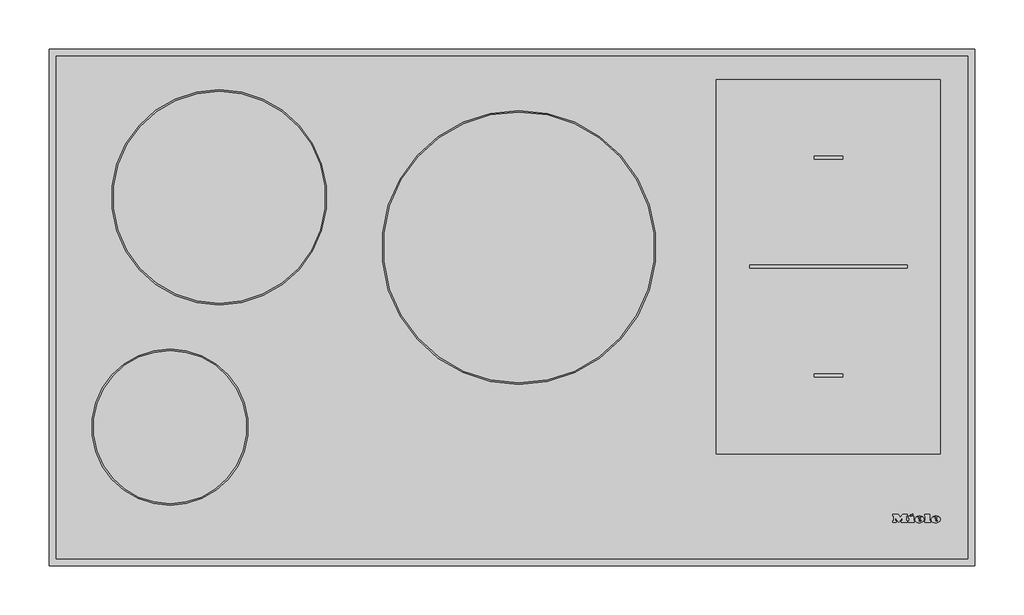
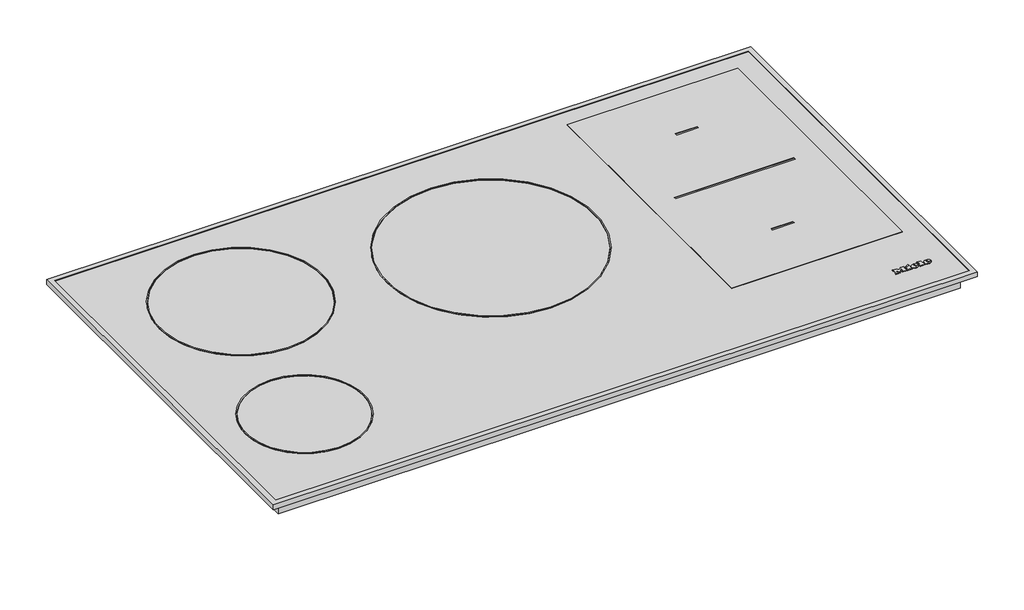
# Not in any storey: 1 proxy.
"""IFC4 building model written with IfcOpenShell, lengths in millimetres."""

import ifcopenshell
import ifcopenshell.guid

model = None  # the IFC model being written
_history = None  # IfcOwnerHistory: only IFC2X3 demands one
_inside = {}  # id of a spatial element -> (the spatial element, [elements in it])
_under = {}  # id of a project, library or spatial element -> (it, [spatial elements below it])
_declared = {}  # id of a project -> (the project, [libraries it declares])
_typed = {}  # id of a type object -> (the type object, [elements of that type])
_made_of = {}  # id of a material, layer set ... -> (it, [elements and type objects made of it])


def new_model(schema):
    """Start an empty IFC model of exactly this schema.

    Asked for "IFC4X3", IfcOpenShell would pick the latest addendum, in which some entities
    have other attributes; the version numbers below select the first issue.
    IFC2X3 requires an IfcOwnerHistory on every rooted entity: one is made here for all.
    """
    global model, _history
    if schema == "IFC4X3":
        model = ifcopenshell.file(schema_version=(4, 3, 0, 0))
    else:
        model = ifcopenshell.file(schema=schema)
    _inside.clear()
    _under.clear()
    _declared.clear()
    _typed.clear()
    _made_of.clear()
    _history = None
    if model.schema == "IFC2X3":
        org = make("IfcOrganization", Name="unknown")
        user = make(
            "IfcPersonAndOrganization",
            ThePerson=make("IfcPerson", FamilyName="unknown"),
            TheOrganization=org,
        )
        app = make(
            "IfcApplication",
            ApplicationDeveloper=org,
            Version="unknown",
            ApplicationFullName="unknown",
            ApplicationIdentifier="unknown",
        )
        _history = make(
            "IfcOwnerHistory",
            OwningUser=user,
            OwningApplication=app,
            ChangeAction="ADDED",
            CreationDate=0,
        )
    return model


def make(cls, **values):
    """One entity of the class cls with the attributes given. An attribute that is None is left unset."""
    return model.create_entity(
        cls, **{name: value for name, value in values.items() if value is not None}
    )


def rooted(cls, **values):
    """An entity with a GlobalId (a new one), such as an element, a storey or a relation."""
    return make(cls, GlobalId=ifcopenshell.guid.new(), OwnerHistory=_history, **values)


def si_unit(unit_type, name, prefix=None):
    """IfcSIUnit, for example si_unit("LENGTHUNIT", "METRE", prefix="MILLI")."""
    return make("IfcSIUnit", UnitType=unit_type, Prefix=prefix, Name=name)


def assignment(units):
    """IfcUnitAssignment: the units of a project."""
    return None if units is None else make("IfcUnitAssignment", Units=units)


def point(xyz):
    """IfcCartesianPoint."""
    return None if xyz is None else make("IfcCartesianPoint", Coordinates=xyz)


def direction(xyz):
    """IfcDirection."""
    return None if xyz is None else make("IfcDirection", DirectionRatios=xyz)


def frame(location, z_axis=None, x_axis=None):
    """IfcAxis2Placement3D, a coordinate frame: its origin and axes. An axis left out is left unset."""
    return make(
        "IfcAxis2Placement3D",
        Location=point(location),
        Axis=direction(z_axis),
        RefDirection=direction(x_axis),
    )


def frame_2d(location, x_axis=None):
    """IfcAxis2Placement2D, a coordinate frame in the plane: its origin and x axis."""
    return make(
        "IfcAxis2Placement2D", Location=point(location), RefDirection=direction(x_axis)
    )


def origin():
    """The frame at (0, 0, 0) with its axes left unset."""
    return frame((0.0, 0.0, 0.0))


def place(relative_to, where):
    """IfcLocalPlacement: puts the frame where relative to a parent placement (None: the world)."""
    return make(
        "IfcLocalPlacement", PlacementRelTo=relative_to, RelativePlacement=where
    )


def context(
    kind, dimensions, precision=None, world=None, true_north=None, identifier=None
):
    """IfcGeometricRepresentationContext, for example the 3D "Model" context."""
    return make(
        "IfcGeometricRepresentationContext",
        ContextIdentifier=identifier,
        ContextType=kind,
        CoordinateSpaceDimension=dimensions,
        Precision=precision,
        WorldCoordinateSystem=world,
        TrueNorth=true_north,
    )


def project(units=None, contexts=None):
    """IfcProject with its units and contexts."""
    return rooted(
        "IfcProject",
        Name="project",
        RepresentationContexts=contexts,
        UnitsInContext=assignment(units),
    )


def spatial(cls, under=None, at=None, **own):
    """A site, building, storey or space (cls), placed at a placement, below another one or the project."""
    s = rooted(cls, ObjectPlacement=at, **own)
    if under is not None:
        _under.setdefault(under.id(), (under, []))[1].append(s)
    return s


def polyline(points):
    """IfcPolyline through the points."""
    return make("IfcPolyline", Points=[point(p) for p in points])


def circle_curve(where, radius):
    """IfcCircle in the frame where."""
    return make("IfcCircle", Position=where, Radius=radius)


def ellipse_curve(where, semi_axis1, semi_axis2):
    """IfcEllipse in the frame where."""
    return make(
        "IfcEllipse", Position=where, SemiAxis1=semi_axis1, SemiAxis2=semi_axis2
    )


def trimmed(basis, trim1, trim2, sense, master):
    """IfcTrimmedCurve: the piece of a basis curve between two trims."""
    return make(
        "IfcTrimmedCurve",
        BasisCurve=basis,
        Trim1=trim1,
        Trim2=trim2,
        SenseAgreement=sense,
        MasterRepresentation=master,
    )


def segment(curve, same_sense, transition):
    """IfcCompositeCurveSegment."""
    return make(
        "IfcCompositeCurveSegment",
        Transition=transition,
        SameSense=same_sense,
        ParentCurve=curve,
    )


def composite_curve(segments, self_intersect=None):
    """IfcCompositeCurve: segments joined end to end."""
    return make("IfcCompositeCurve", Segments=segments, SelfIntersect=self_intersect)


def outline(outer, holes=None, kind="AREA"):
    """IfcArbitraryClosedProfileDef: a profile drawn as a closed curve; with holes, ...WithVoids."""
    if holes is None:
        return make("IfcArbitraryClosedProfileDef", ProfileType=kind, OuterCurve=outer)
    return make(
        "IfcArbitraryProfileDefWithVoids",
        ProfileType=kind,
        OuterCurve=outer,
        InnerCurves=holes,
    )


def extrude(swept, where, along, depth):
    """IfcExtrudedAreaSolid: the profile swept, set in the frame where, extruded along a direction by depth."""
    return make(
        "IfcExtrudedAreaSolid",
        SweptArea=swept,
        Position=where,
        ExtrudedDirection=direction(along),
        Depth=depth,
    )


def faces_of(points, faces, orient=None, outer=None):
    """IfcFace entities. A face is a list of loops; a loop is a list of indices into points, from 0.

    orient and outer hold one flag for each loop. By default every Orientation is true, the
    first loop of a face is its IfcFaceOuterBound and the others are IfcFaceBound.
    """
    made = []
    for i, loops in enumerate(faces):
        bounds = []
        for j, loop in enumerate(loops):
            is_outer = j == 0 if outer is None else outer[i][j]
            bounds.append(
                make(
                    "IfcFaceOuterBound" if is_outer else "IfcFaceBound",
                    Bound=make("IfcPolyLoop", Polygon=[points[k] for k in loop]),
                    Orientation=True if orient is None else orient[i][j],
                )
            )
        made.append(make("IfcFace", Bounds=bounds))
    return made


def faceted_brep(points, faces, orient=None, outer=None, voids=None):
    """IfcFacetedBrep: a solid bounded by flat faces; with voids (closed shells), ...WithVoids."""
    shared = [point(p) for p in points]
    hull = make("IfcClosedShell", CfsFaces=faces_of(shared, faces, orient, outer))
    if voids is None:
        return make("IfcFacetedBrep", Outer=hull)
    return make(
        "IfcFacetedBrepWithVoids",
        Outer=hull,
        Voids=[
            make(cls, CfsFaces=faces_of(shared, fs, o, b)) for cls, fs, o, b in voids
        ],
    )


def shape(context_of_items, identifier, shape_type, items):
    """IfcShapeRepresentation: the items that make up one representation, for example the "Body"."""
    return make(
        "IfcShapeRepresentation",
        ContextOfItems=context_of_items,
        RepresentationIdentifier=identifier,
        RepresentationType=shape_type,
        Items=items,
    )


def source(mapping_origin, context_of_items, identifier, shape_type, items):
    """IfcRepresentationMap: a shape defined once, which mapped items show again and again."""
    return make(
        "IfcRepresentationMap",
        MappingOrigin=mapping_origin,
        MappedRepresentation=shape(context_of_items, identifier, shape_type, items),
    )


def transform(
    local_origin,
    x_axis=None,
    y_axis=None,
    z_axis=None,
    scale=None,
    scale2=None,
    scale3=None,
    uniform=True,
):
    """IfcCartesianTransformationOperator3D, or its non-uniform kind. x_axis, y_axis, z_axis: its Axis1, 2, 3."""
    if uniform:
        return make(
            "IfcCartesianTransformationOperator3D",
            Axis1=direction(x_axis),
            Axis2=direction(y_axis),
            LocalOrigin=point(local_origin),
            Scale=scale,
            Axis3=direction(z_axis),
        )
    return make(
        "IfcCartesianTransformationOperator3DnonUniform",
        Axis1=direction(x_axis),
        Axis2=direction(y_axis),
        LocalOrigin=point(local_origin),
        Scale=scale,
        Axis3=direction(z_axis),
        Scale2=scale2,
        Scale3=scale3,
    )


def mapped(mapping_source, mapping_target):
    """IfcMappedItem: shows the shape of a source again, moved by a transform."""
    return make(
        "IfcMappedItem", MappingSource=mapping_source, MappingTarget=mapping_target
    )


def made_of(thing, what):
    """Note that an element or type object is made of a material, layer set ...; save() writes the relation."""
    if what is not None:
        _made_of.setdefault(what.id(), (what, []))[1].append(thing)
    return thing


def element(
    cls,
    number,
    at=None,
    inside=None,
    cuts=None,
    type_object=None,
    material=None,
    context=None,
    identifier="Body",
    shape_type=None,
    held_by="IfcProductDefinitionShape",
    body=None,
    shapes=None,
    **own,
):
    """One element of the class cls, such as IfcWall. Its Tag is "e" and its number.

    at: its placement. inside: the storey or other place that contains it. cuts: it is an
    opening in that element (IfcRelVoidsElement). A single representation is given by context,
    identifier, shape_type and body (its items); several are given by shapes. held_by: the class
    of the entity that holds the representations. save() writes the other relations.
    """
    e = rooted(cls, Tag="e%d" % number, ObjectPlacement=at, **own)
    if body is not None:
        shapes = [shape(context, identifier, shape_type, body)]
    if shapes is not None:
        e.Representation = make(held_by, Representations=shapes)
    if inside is not None:
        _inside.setdefault(inside.id(), (inside, []))[1].append(e)
    if cuts is not None:
        rooted(
            "IfcRelVoidsElement", RelatingBuildingElement=cuts, RelatedOpeningElement=e
        )
    if type_object is not None:
        _typed.setdefault(type_object.id(), (type_object, []))[1].append(e)
    return made_of(e, material)


def aggregate(whole, parts):
    """IfcRelAggregates: a whole, such as a stair, and the parts it consists of."""
    return rooted("IfcRelAggregates", RelatingObject=whole, RelatedObjects=parts)


def save(model, path):
    """Write the relations noted so far, then the file.

    IfcRelAggregates (storeys below a building ...), IfcRelContainedInSpatialStructure (elements
    in a storey), IfcRelDefinesByType, IfcRelAssociatesMaterial and IfcRelDeclares: one each for
    every whole, place, type object, material and project.
    """
    for whole, parts in _under.values():
        aggregate(whole, parts)
    for where, things in _inside.values():
        rooted(
            "IfcRelContainedInSpatialStructure",
            RelatedElements=things,
            RelatingStructure=where,
        )
    for kind, things in _typed.values():
        rooted("IfcRelDefinesByType", RelatedObjects=things, RelatingType=kind)
    for what, things in _made_of.values():
        rooted("IfcRelAssociatesMaterial", RelatedObjects=things, RelatingMaterial=what)
    for by, libraries in _declared.values():
        rooted("IfcRelDeclares", RelatingContext=by, RelatedDefinitions=libraries)
    model.write(path)


def plane_surface(at):
    """IfcPlane: the flat surface through the origin of the frame at, square to its z axis."""
    return make("IfcPlane", Position=at)


def cylinder_surface(at, radius):
    """IfcCylindricalSurface: all points at the distance radius from the z axis of the frame at."""
    return make("IfcCylindricalSurface", Position=at, Radius=radius)


def revolved_surface(curve, axis_point, axis_direction):
    """IfcSurfaceOfRevolution: the curve turned about the line through axis_point along axis_direction."""
    return make(
        "IfcSurfaceOfRevolution",
        SweptCurve=make("IfcArbitraryOpenProfileDef", ProfileType="CURVE", Curve=curve),
        AxisPosition=make("IfcAxis1Placement", Location=point(axis_point), Axis=direction(axis_direction)),
    )


def extruded_surface(curve, direction_of_extrusion, depth):
    """IfcSurfaceOfLinearExtrusion: the curve pushed along a direction by depth."""
    return make(
        "IfcSurfaceOfLinearExtrusion",
        SweptCurve=make("IfcArbitraryOpenProfileDef", ProfileType="CURVE", Curve=curve),
        ExtrudedDirection=direction(direction_of_extrusion),
        Depth=depth,
    )


def advanced_brep(points, edges, surfaces, faces):
    """IfcAdvancedBrep: a solid bounded by faces that lie on surfaces and meet in shared edges.

    An edge is (start, end): straight between two places in points (the first is 0);
    or (start, end, curve); or (start, end, curve, False) where it runs against its curve.
    A face is (place in surfaces, loops), or (place, loops, False) where it looks against
    its surface's normal. A loop lists edges by number (the first is 1), with a minus sign
    where the edge is run from its end to its start. The first loop is the outer one.
    """
    corners = [point(p) for p in points]
    vertices = [make("IfcVertexPoint", VertexGeometry=c) for c in corners]
    made = []
    for start, end, *more in edges:
        made.append(
            make(
                "IfcEdgeCurve",
                EdgeStart=vertices[start],
                EdgeEnd=vertices[end],
                EdgeGeometry=more[0] if more else make("IfcPolyline", Points=[corners[start], corners[end]]),
                SameSense=more[1] if len(more) > 1 else True,
            )
        )
    hull = []
    for where, loops, *sense in faces:
        bounds = []
        for j, loop in enumerate(loops):
            ring = [make("IfcOrientedEdge", EdgeElement=made[abs(k) - 1], Orientation=k > 0) for k in loop]
            bounds.append(
                make(
                    "IfcFaceOuterBound" if j == 0 else "IfcFaceBound",
                    Bound=make("IfcEdgeLoop", EdgeList=ring),
                    Orientation=True,
                )
            )
        hull.append(make("IfcAdvancedFace", Bounds=bounds, FaceSurface=surfaces[where], SameSense=sense[0] if sense else True))
    return make("IfcAdvancedBrep", Outer=make("IfcClosedShell", CfsFaces=hull))


def specialty_equipment_6501de67(model_context):
    return source(origin(), model_context, "Body", "SolidModel", [
        advanced_brep(
        [(430.648, 45.8948833, 6.9922537), (430.648, 46.7028828, 6.9931551), (436.0, 46.7028828, 6.9931551), (426.688, 46.7028828, 6.9931551), (428.888, 43.9988845, 6.9901386), (435.864, 45.8948833, 6.9922537), (433.448, 45.8948833, 6.9922537), (431.544, 44.9988838, 6.9912542), (430.648, 47.7268821, 6.9942974), (430.648, 48.5988816, 6.9952701), (432.016, 48.5988816, 6.9952701), (432.016, 47.7268821, 6.9942974), (430.648, 45.8959988, 5.9922543), (431.544, 44.9999994, 5.9912548), (433.448, 45.8959988, 5.9922543), (435.864, 45.8959988, 5.9922543), (428.888, 44.0, 5.9901393), (426.688, 46.7039983, 5.9931557), (436.0, 46.7039983, 5.9931557), (430.648, 46.7039983, 5.9931557), (430.648, 47.7279977, 5.994298), (432.016, 47.7279977, 5.994298), (432.016, 48.5999971, 5.9952707), (430.648, 48.5999971, 5.9952707)],
        [
            (0, 1),
            (1, 2),
            (2, 3, ellipse_curve(frame((431.344, 46.7028828, 6.9931551), z_axis=(0.0, -0.0011155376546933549, 0.9999993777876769), x_axis=(-1.0, 0.0, 0.0)), 4.656, 3.848)),
            (3, 4, circle_curve(frame((429.7840436, 46.9748826, 6.9934585), z_axis=(0.0, -0.0011155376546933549, 0.9999993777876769), x_axis=(0.0, -0.9999993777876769, -0.0011155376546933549)), 3.1079688)),
            (4, 5, circle_curve(frame((431.2507936, 49.0868813, 6.9958145), z_axis=(0.0, -0.0011155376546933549, 0.9999993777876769), x_axis=(0.0, -0.9999993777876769, -0.0011155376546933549)), 5.6098607)),
            (5, 6),
            (6, 7, circle_curve(frame((431.9350588, 46.6388828, 6.9930837), z_axis=(0.0, 0.0011155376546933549, -0.9999993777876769), x_axis=(0.0, -0.9999993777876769, -0.0011155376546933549)), 1.6859795)),
            (7, 0, circle_curve(frame((431.544, 45.8948833, 6.9922537), z_axis=(0.0, 0.0011155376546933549, -0.9999993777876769), x_axis=(0.0, -0.9999993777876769, -0.0011155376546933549)), 0.896)),
            (8, 9),
            (9, 10, circle_curve(frame((431.332, 48.5988816, 6.9952701), z_axis=(0.0, 0.0011155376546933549, -0.9999993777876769), x_axis=(0.0, -0.9999993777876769, -0.0011155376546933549)), 0.684)),
            (10, 11),
            (11, 8),
            (12, 13, circle_curve(frame((431.544, 45.8959988, 5.9922543), z_axis=(0.0, -0.0011155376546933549, 0.9999993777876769), x_axis=(0.0, -0.9999993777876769, -0.0011155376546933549)), 0.896)),
            (13, 14, circle_curve(frame((431.9350588, 46.6399984, 5.9930843), z_axis=(0.0, -0.0011155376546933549, 0.9999993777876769), x_axis=(0.0, -0.9999993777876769, -0.0011155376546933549)), 1.6859795)),
            (14, 15),
            (15, 16, circle_curve(frame((431.2507936, 49.0879968, 5.9958151), z_axis=(0.0, 0.0011155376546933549, -0.9999993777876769), x_axis=(0.0, -0.9999993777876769, -0.0011155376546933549)), 5.6098607)),
            (16, 17, circle_curve(frame((429.7840436, 46.9759981, 5.9934591), z_axis=(0.0, 0.0011155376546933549, -0.9999993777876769), x_axis=(0.0, -0.9999993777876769, -0.0011155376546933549)), 3.1079688)),
            (17, 18, ellipse_curve(frame((431.344, 46.7039983, 5.9931557), z_axis=(0.0, 0.0011155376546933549, -0.9999993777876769), x_axis=(-1.0, 0.0, 0.0)), 4.656, 3.848)),
            (18, 19),
            (19, 12),
            (20, 21),
            (21, 22),
            (22, 23, circle_curve(frame((431.332, 48.5999971, 5.9952707), z_axis=(0.0, -0.0011155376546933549, 0.9999993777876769), x_axis=(0.0, -0.9999993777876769, -0.0011155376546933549)), 0.684)),
            (23, 20),
            (0, 12),
            (19, 1),
            (18, 2),
            (5, 15),
            (14, 6),
            (17, 3),
            (13, 7),
            (16, 4),
            (8, 20),
            (23, 9),
            (22, 10),
            (21, 11),
        ],
        [
            plane_surface(frame((430.648, 46.7028828, 6.9931551), z_axis=(0.0, -0.0011155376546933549, 0.9999993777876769), x_axis=(0.0, 0.9999993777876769, 0.0011155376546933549))),
            plane_surface(frame((430.648, 46.7039983, 5.9931557), z_axis=(0.0, 0.0011155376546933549, -0.9999993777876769), x_axis=(0.0, -0.9999993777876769, -0.0011155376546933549))),
            plane_surface(frame((430.648, 45.8948833, 6.9922537), z_axis=(1.0000000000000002, 0.0, 0.0), x_axis=(0.0, 0.001115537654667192, -0.999999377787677))),
            plane_surface(frame((430.648, 46.7028828, 6.9931551), z_axis=(0.0, -0.999999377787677, -0.001115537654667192), x_axis=(0.0, 0.001115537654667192, -0.999999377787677))),
            plane_surface(frame((435.864, 45.8948833, 6.9922537), z_axis=(0.0, 0.999999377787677, 0.001115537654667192), x_axis=(0.0, 0.001115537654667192, -0.999999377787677))),
            extruded_surface(trimmed(ellipse_curve(frame((431.344, 46.7051139, 4.9931563), z_axis=(0.0, -0.0011155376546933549, 0.9999993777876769), x_axis=(-1.0, 0.0, 0.0)), 4.656, 3.848), [point((436.0, 46.7051139, 4.9931563))], [point((426.688, 46.7051139, 4.9931563))], True, "CARTESIAN"), (0.0, -0.001115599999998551, 0.9999994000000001), 1.00000002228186),
            revolved_surface(polyline([(431.9350588, 44.954019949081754, 5.991203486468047), (431.9350588, 44.95290441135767, 6.99120292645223)]), (431.9350588, 46.6399984, 5.9930843), (0.0, 0.0011155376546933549, -0.9999993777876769)),
            revolved_surface(polyline([(431.544, 44.99999935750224, 5.9912547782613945), (431.544, 44.99888381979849, 6.991254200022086)]), (431.544, 45.8959988, 5.9922543), (0.0, 0.0011155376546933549, -0.9999993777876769)),
            cylinder_surface(frame((429.7840436, 46.9759981, 5.9934591), z_axis=(0.0, -0.0011155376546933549, 0.9999993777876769), x_axis=(0.0, -0.9999993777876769, -0.0011155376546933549)), 3.1079688),
            cylinder_surface(frame((431.2507936, 49.0879968, 5.9958151), z_axis=(0.0, -0.0011155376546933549, 0.9999993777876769), x_axis=(0.0, -0.9999993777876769, -0.0011155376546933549)), 5.6098607),
            plane_surface(frame((430.648, 47.7268821, 6.9942974), z_axis=(1.0000000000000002, 0.0, 0.0), x_axis=(0.0, 0.001115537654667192, -0.999999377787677))),
            revolved_surface(polyline([(431.332, 47.915997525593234, 5.99450767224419), (431.332, 47.91488198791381, 6.994507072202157)]), (431.332, 48.5999971, 5.9952707), (0.0, 0.0011155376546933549, -0.9999993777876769)),
            plane_surface(frame((432.016, 48.5988816, 6.9952701), z_axis=(-1.0000000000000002, 0.0, 0.0), x_axis=(0.0, 0.001115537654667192, -0.999999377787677))),
            plane_surface(frame((432.016, 47.7268821, 6.9942974), z_axis=(0.0, 0.999999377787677, 0.001115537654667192), x_axis=(0.0, 0.001115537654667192, -0.999999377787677))),
        ],
        [
            (0, [[1, 2, 3, 4, 5, 6, 7, 8], [9, 10, 11, 12]]),
            (1, [[13, 14, 15, 16, 17, 18, 19, 20], [21, 22, 23, 24]]),
            (2, [[-1, 25, -20, 26]]),
            (3, [[-2, -26, -19, 27]]),
            (4, [[-6, 28, -15, 29]]),
            (5, [[-3, -27, -18, 30]]),
            (6, [[-7, -29, -14, 31]]),
            (7, [[-8, -31, -13, -25]]),
            (8, [[-4, -30, -17, 32]]),
            (9, [[-5, -32, -16, -28]]),
            (10, [[-9, 33, -24, 34]]),
            (11, [[-10, -34, -23, 35]]),
            (12, [[-11, -35, -22, 36]]),
            (13, [[-12, -36, -21, -33]]),
        ],
    ),
        advanced_brep(
        [(413.952, 45.8948833, 6.9922537), (413.952, 46.7028828, 6.9931551), (419.304, 46.7028828, 6.9931551), (409.992, 46.7028828, 6.9931551), (412.192, 43.9988845, 6.9901386), (419.168, 45.8948833, 6.9922537), (416.752, 45.8948833, 6.9922537), (414.848, 44.9988838, 6.9912542), (413.952, 47.7268821, 6.9942974), (413.952, 48.5988816, 6.9952701), (415.32, 48.5988816, 6.9952701), (415.32, 47.7268821, 6.9942974), (413.952, 45.8959988, 5.9922543), (414.848, 44.9999994, 5.9912548), (416.752, 45.8959988, 5.9922543), (419.168, 45.8959988, 5.9922543), (412.192, 44.0, 5.9901393), (409.992, 46.7039983, 5.9931557), (419.304, 46.7039983, 5.9931557), (413.952, 46.7039983, 5.9931557), (413.952, 47.7279977, 5.994298), (415.32, 47.7279977, 5.994298), (415.32, 48.5999971, 5.9952707), (413.952, 48.5999971, 5.9952707)],
        [
            (0, 1),
            (1, 2),
            (2, 3, ellipse_curve(frame((414.648, 46.7028828, 6.9931551), z_axis=(0.0, -0.0011155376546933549, 0.9999993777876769), x_axis=(-1.0, 0.0, 0.0)), 4.656, 3.848)),
            (3, 4, circle_curve(frame((413.0880436, 46.9748826, 6.9934585), z_axis=(0.0, -0.0011155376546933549, 0.9999993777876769), x_axis=(0.0, -0.9999993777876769, -0.0011155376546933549)), 3.1079688)),
            (4, 5, circle_curve(frame((414.5547936, 49.0868813, 6.9958145), z_axis=(0.0, -0.0011155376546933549, 0.9999993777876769), x_axis=(0.0, -0.9999993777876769, -0.0011155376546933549)), 5.6098607)),
            (5, 6),
            (6, 7, circle_curve(frame((415.2390588, 46.6388828, 6.9930837), z_axis=(0.0, 0.0011155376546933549, -0.9999993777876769), x_axis=(0.0, -0.9999993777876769, -0.0011155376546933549)), 1.6859795)),
            (7, 0, circle_curve(frame((414.848, 45.8948833, 6.9922537), z_axis=(0.0, 0.0011155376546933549, -0.9999993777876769), x_axis=(0.0, -0.9999993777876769, -0.0011155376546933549)), 0.896)),
            (8, 9),
            (9, 10, circle_curve(frame((414.636, 48.5988816, 6.9952701), z_axis=(0.0, 0.0011155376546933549, -0.9999993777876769), x_axis=(0.0, -0.9999993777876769, -0.0011155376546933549)), 0.684)),
            (10, 11),
            (11, 8),
            (12, 13, circle_curve(frame((414.848, 45.8959988, 5.9922543), z_axis=(0.0, -0.0011155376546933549, 0.9999993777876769), x_axis=(0.0, -0.9999993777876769, -0.0011155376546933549)), 0.896)),
            (13, 14, circle_curve(frame((415.2390588, 46.6399984, 5.9930843), z_axis=(0.0, -0.0011155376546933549, 0.9999993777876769), x_axis=(0.0, -0.9999993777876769, -0.0011155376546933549)), 1.6859795)),
            (14, 15),
            (15, 16, circle_curve(frame((414.5547936, 49.0879968, 5.9958151), z_axis=(0.0, 0.0011155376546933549, -0.9999993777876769), x_axis=(0.0, -0.9999993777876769, -0.0011155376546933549)), 5.6098607)),
            (16, 17, circle_curve(frame((413.0880436, 46.9759981, 5.9934591), z_axis=(0.0, 0.0011155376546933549, -0.9999993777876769), x_axis=(0.0, -0.9999993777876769, -0.0011155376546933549)), 3.1079688)),
            (17, 18, ellipse_curve(frame((414.648, 46.7039983, 5.9931557), z_axis=(0.0, 0.0011155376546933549, -0.9999993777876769), x_axis=(-1.0, 0.0, 0.0)), 4.656, 3.848)),
            (18, 19),
            (19, 12),
            (20, 21),
            (21, 22),
            (22, 23, circle_curve(frame((414.636, 48.5999971, 5.9952707), z_axis=(0.0, -0.0011155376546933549, 0.9999993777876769), x_axis=(0.0, -0.9999993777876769, -0.0011155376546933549)), 0.684)),
            (23, 20),
            (0, 12),
            (19, 1),
            (18, 2),
            (5, 15),
            (14, 6),
            (17, 3),
            (13, 7),
            (16, 4),
            (8, 20),
            (23, 9),
            (22, 10),
            (21, 11),
        ],
        [
            plane_surface(frame((413.952, 46.7028828, 6.9931551), z_axis=(0.0, -0.0011155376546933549, 0.9999993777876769), x_axis=(0.0, 0.9999993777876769, 0.0011155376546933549))),
            plane_surface(frame((413.952, 46.7039983, 5.9931557), z_axis=(0.0, 0.0011155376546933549, -0.9999993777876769), x_axis=(0.0, -0.9999993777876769, -0.0011155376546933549))),
            plane_surface(frame((413.952, 45.8948833, 6.9922537), z_axis=(1.0000000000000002, 0.0, 0.0), x_axis=(0.0, 0.001115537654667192, -0.999999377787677))),
            plane_surface(frame((413.952, 46.7028828, 6.9931551), z_axis=(0.0, -0.999999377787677, -0.001115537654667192), x_axis=(0.0, 0.001115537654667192, -0.999999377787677))),
            plane_surface(frame((419.168, 45.8948833, 6.9922537), z_axis=(0.0, 0.999999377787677, 0.001115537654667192), x_axis=(0.0, 0.001115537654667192, -0.999999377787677))),
            extruded_surface(trimmed(ellipse_curve(frame((414.648, 46.7051139, 4.9931563), z_axis=(0.0, -0.0011155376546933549, 0.9999993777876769), x_axis=(-1.0, 0.0, 0.0)), 4.656, 3.848), [point((419.304, 46.7051139, 4.9931563))], [point((409.992, 46.7051139, 4.9931563))], True, "CARTESIAN"), (0.0, -0.001115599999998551, 0.9999994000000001), 1.00000002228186),
            revolved_surface(polyline([(415.2390588, 44.954019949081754, 5.991203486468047), (415.2390588, 44.95290441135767, 6.99120292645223)]), (415.2390588, 46.6399984, 5.9930843), (0.0, 0.0011155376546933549, -0.9999993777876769)),
            revolved_surface(polyline([(414.848, 44.99999935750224, 5.9912547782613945), (414.848, 44.99888381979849, 6.991254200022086)]), (414.848, 45.8959988, 5.9922543), (0.0, 0.0011155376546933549, -0.9999993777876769)),
            cylinder_surface(frame((413.0880436, 46.9759981, 5.9934591), z_axis=(0.0, -0.0011155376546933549, 0.9999993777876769), x_axis=(0.0, -0.9999993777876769, -0.0011155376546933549)), 3.1079688),
            cylinder_surface(frame((414.5547936, 49.0879968, 5.9958151), z_axis=(0.0, -0.0011155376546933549, 0.9999993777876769), x_axis=(0.0, -0.9999993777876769, -0.0011155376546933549)), 5.6098607),
            plane_surface(frame((413.952, 47.7268821, 6.9942974), z_axis=(1.0000000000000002, 0.0, 0.0), x_axis=(0.0, 0.001115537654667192, -0.999999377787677))),
            revolved_surface(polyline([(414.636, 47.915997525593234, 5.99450767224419), (414.636, 47.91488198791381, 6.994507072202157)]), (414.636, 48.5999971, 5.9952707), (0.0, 0.0011155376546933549, -0.9999993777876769)),
            plane_surface(frame((415.32, 48.5988816, 6.9952701), z_axis=(-1.0000000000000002, 0.0, 0.0), x_axis=(0.0, 0.001115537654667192, -0.999999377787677))),
            plane_surface(frame((415.32, 47.7268821, 6.9942974), z_axis=(0.0, 0.999999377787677, 0.001115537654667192), x_axis=(0.0, 0.001115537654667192, -0.999999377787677))),
        ],
        [
            (0, [[1, 2, 3, 4, 5, 6, 7, 8], [9, 10, 11, 12]]),
            (1, [[13, 14, 15, 16, 17, 18, 19, 20], [21, 22, 23, 24]]),
            (2, [[-1, 25, -20, 26]]),
            (3, [[-2, -26, -19, 27]]),
            (4, [[-6, 28, -15, 29]]),
            (5, [[-3, -27, -18, 30]]),
            (6, [[-7, -29, -14, 31]]),
            (7, [[-8, -31, -13, -25]]),
            (8, [[-4, -30, -17, 32]]),
            (9, [[-5, -32, -16, -28]]),
            (10, [[-9, 33, -24, 34]]),
            (11, [[-10, -34, -23, 35]]),
            (12, [[-11, -35, -22, 36]]),
            (13, [[-12, -36, -21, -33]]),
        ],
    ),
        extrude(outline(polyline([(0.0, 0.0), (-0.0109086, -2.9993294), (-1.4390415, -2.9920868), (-1.4315307, 0.0), (0.0, 0.0)])), frame((405.208, 51.5279953, 5.998537), z_axis=(0.0, -0.001115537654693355, 0.999999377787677), x_axis=(-0.4247202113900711, 0.9053240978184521, 0.0010099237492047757)), (0.0, 0.0, 1.0), 1.0),
        extrude(outline(polyline([(-0.4933908, 2.4141097), (-2.7800844, -2.4601583), (-7.0459741, -0.4588767), (-7.4401145, -1.299018), (-8.6568709, -0.728194), (-5.9760369, 4.9862153), (-4.7592805, 4.4153913), (-5.1636142, 3.5535222), (-2.1941493, 2.1604399), (-1.7898157, 3.022309), (-0.4933908, 2.4141097)])), frame((405.208, 51.5279953, 5.998537), z_axis=(0.0, -0.001115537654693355, 0.999999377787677), x_axis=(-0.4247202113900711, 0.9053240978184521, 0.0010099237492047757)), (0.0, 0.0, 1.0), 1.0),
        extrude(outline(polyline([(0.0, 0.0), (0.0, -1.304), (-5.504, -1.304), (-5.504, 5.3519999), (-6.488, 5.3519999), (-6.488, 6.696), (0.0, 6.696), (0.0, 5.3519999), (-0.96, 5.3519999), (-0.96, 0.0), (0.0, 0.0)])), frame((419.752, 50.6959958, 5.9976089), z_axis=(0.0, -0.0011155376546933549, 0.9999993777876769), x_axis=(-1.0, 0.0, 0.0)), (0.0, 0.0, 1.0), 1.0),
        extrude(outline(polyline([(0.0, 0.0), (0.0, -1.304), (-5.576, -1.304), (-7.92, 1.696), (-10.256, -1.304), (-15.128, -1.304), (-15.128, 0.0), (-14.112, 0.0), (-14.112, 5.3519999), (-15.128, 5.3519999), (-15.128, 6.696), (-8.744, 6.696), (-8.744, 5.3519999), (-9.728, 5.3519999), (-9.728, 1.8807777), (-6.136, 6.696), (-2.56, 1.9488752), (-2.56, 5.3519999), (-3.52, 5.3519999), (-3.52, 6.696), (0.0, 6.696), (0.0, 5.3519999), (-0.968, 5.3519999), (-0.968, 0.0), (0.0, 0.0)])), frame((387.288, 50.6959958, 5.9976089), z_axis=(0.0, -0.0011155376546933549, 0.9999993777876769), x_axis=(-1.0, 0.0, 0.0)), (0.0, 0.0, 1.0), 1.0),
        extrude(outline(polyline([(290.3772603, 428.0), (283.0, 428.0), (283.0, 429.2557039), (289.1215564, 429.2557039), (289.1215564, 432.5519266), (283.470889, 432.5519266), (283.470889, 433.8076304), (289.1215564, 433.8076304), (289.1215564, 436.7899271), (283.156963, 436.7899271), (283.156963, 438.045631), (290.3772603, 438.045631), (290.3772603, 428.0)])), frame((0.0, 0.0, -76.0), z_axis=(0.0, 0.0, 1.0), x_axis=(1.0, 0.0, 0.0)), (0.0, 0.0, 1.0), 1.0),
        extrude(outline(polyline([(281.1164442, 428.0), (274.8379248, 428.0), (274.8379248, 429.2557039), (279.8607403, 429.2557039), (279.8607403, 438.045631), (281.1164442, 438.045631), (281.1164442, 428.0)])), frame((0.0, 0.0, -76.0), z_axis=(0.0, 0.0, 1.0), x_axis=(1.0, 0.0, 0.0)), (0.0, 0.0, 1.0), 1.0),
        extrude(outline(polyline([(470.0, 524.0), (470.0, 1.0), (-470.0, 1.0), (-470.0, 524.0), (470.0, 524.0)])), frame((0.0, 0.0, 2.0), z_axis=(0.0, 0.0, 1.0), x_axis=(1.0, 0.0, 0.0)), (0.0, 0.0, 1.0), 4.0),
        extrude(outline(polyline([(456.5, 511.5), (456.5, 14.5), (-456.5, 14.5), (-456.5, 511.5), (456.5, 511.5)])), frame((0.0, 0.0, -20.0), z_axis=(0.0, 0.0, 1.0), x_axis=(1.0, 0.0, 0.0)), (0.0, 0.0, 1.0), 22.0),
        faceted_brep([(464.0, 519.0, 7.0), (464.0, 519.0, 6.0), (464.0, 7.0, 6.0), (464.0, 7.0, 7.0), (471.0, 526.0, 0.0), (471.0, 526.0, 7.0), (471.0, 0.0, 7.0), (471.0, 0.0, 0.0), (470.0, 525.0, 6.0), (470.0, 525.0, 0.0), (470.0, 1.0, 0.0), (470.0, 1.0, 6.0), (-464.0, 7.0, 6.0), (-464.0, 7.0, 7.0), (-471.0, 0.0, 7.0), (-471.0, 0.0, 0.0), (-470.0, 1.0, 0.0), (-470.0, 1.0, 6.0), (-464.0, 519.0, 6.0), (-464.0, 519.0, 7.0), (-471.0, 526.0, 7.0), (-471.0, 526.0, 0.0), (-470.0, 525.0, 0.0), (-470.0, 525.0, 6.0)], [[[0, 1, 2, 3]], [[4, 5, 6, 7]], [[8, 9, 10, 11]], [[3, 2, 12, 13]], [[7, 6, 14, 15]], [[11, 10, 16, 17]], [[13, 12, 18, 19]], [[15, 14, 20, 21]], [[17, 16, 22, 23]], [[19, 18, 1, 0]], [[5, 20, 14, 6], [3, 13, 19, 0]], [[21, 20, 5, 4]], [[7, 15, 21, 4], [9, 22, 16, 10]], [[23, 22, 9, 8]], [[11, 17, 23, 8], [1, 18, 12, 2]]]),
        extrude(outline(composite_curve([segment(trimmed(circle_curve(frame_2d((7.0, 324.0)), 139.5), [point((7.0, 463.5))], [point((7.0, 184.5))], False, "CARTESIAN"), True, "CONTINUOUS"), segment(trimmed(circle_curve(frame_2d((7.0, 324.0)), 139.5), [point((7.0, 184.5))], [point((7.0, 463.5))], False, "CARTESIAN"), True, "CONTINUOUS")], self_intersect=False), holes=[composite_curve([segment(trimmed(circle_curve(frame_2d((7.0, 324.0)), 138.0), [point((7.0, 462.0))], [point((7.0, 186.0))], True, "CARTESIAN"), True, "CONTINUOUS"), segment(trimmed(circle_curve(frame_2d((7.0, 324.0)), 138.0), [point((7.0, 186.0))], [point((7.0, 462.0))], True, "CARTESIAN"), True, "CONTINUOUS")], self_intersect=False)]), frame((0.0, 0.0, 6.0), z_axis=(0.0, 0.0, 1.0), x_axis=(1.0, 0.0, 0.0)), (0.0, 0.0, 1.0), 1.0),
        extrude(outline(composite_curve([segment(trimmed(circle_curve(frame_2d((-298.0, 375.0)), 109.5), [point((-298.0, 484.5))], [point((-298.0, 265.5))], False, "CARTESIAN"), True, "CONTINUOUS"), segment(trimmed(circle_curve(frame_2d((-298.0, 375.0)), 109.5), [point((-298.0, 265.5))], [point((-298.0, 484.5))], False, "CARTESIAN"), True, "CONTINUOUS")], self_intersect=False), holes=[composite_curve([segment(trimmed(circle_curve(frame_2d((-298.0, 375.0)), 108.0), [point((-298.0, 483.0))], [point((-298.0, 267.0))], True, "CARTESIAN"), True, "CONTINUOUS"), segment(trimmed(circle_curve(frame_2d((-298.0, 375.0)), 108.0), [point((-298.0, 267.0))], [point((-298.0, 483.0))], True, "CARTESIAN"), True, "CONTINUOUS")], self_intersect=False)]), frame((0.0, 0.0, 6.0), z_axis=(0.0, 0.0, 1.0), x_axis=(1.0, 0.0, 0.0)), (0.0, 0.0, 1.0), 1.0),
        extrude(outline(composite_curve([segment(trimmed(circle_curve(frame_2d((-348.0, 141.0)), 79.5), [point((-348.0, 220.5))], [point((-348.0, 61.5))], False, "CARTESIAN"), True, "CONTINUOUS"), segment(trimmed(circle_curve(frame_2d((-348.0, 141.0)), 79.5), [point((-348.0, 61.5))], [point((-348.0, 220.5))], False, "CARTESIAN"), True, "CONTINUOUS")], self_intersect=False), holes=[composite_curve([segment(trimmed(circle_curve(frame_2d((-348.0, 141.0)), 78.0), [point((-348.0, 219.0))], [point((-348.0, 63.0))], True, "CARTESIAN"), True, "CONTINUOUS"), segment(trimmed(circle_curve(frame_2d((-348.0, 141.0)), 78.0), [point((-348.0, 63.0))], [point((-348.0, 219.0))], True, "CARTESIAN"), True, "CONTINUOUS")], self_intersect=False)]), frame((0.0, 0.0, 6.0), z_axis=(0.0, 0.0, 1.0), x_axis=(1.0, 0.0, 0.0)), (0.0, 0.0, 1.0), 1.0),
        extrude(outline(polyline([(436.0, 495.0), (436.0, 114.0), (208.0, 114.0), (208.0, 495.0), (436.0, 495.0)]), holes=[polyline([(336.5, 417.0), (307.5, 417.0), (307.5, 414.0), (336.5, 414.0), (336.5, 417.0)]), polyline([(402.0, 303.0), (402.0, 306.0), (242.0, 306.0), (242.0, 303.0), (402.0, 303.0)]), polyline([(336.5, 195.0), (307.5, 195.0), (307.5, 192.0), (336.5, 192.0), (336.5, 195.0)])]), frame((0.0, 0.0, 6.0), z_axis=(0.0, 0.0, 1.0), x_axis=(1.0, 0.0, 0.0)), (0.0, 0.0, 1.0), 1.0),
        extrude(outline(composite_curve([segment(trimmed(circle_curve(frame_2d((283.0, 433.0)), 7.5), [point((283.0, 440.5))], [point((283.0, 425.5))], False, "CARTESIAN"), True, "CONTINUOUS"), segment(trimmed(circle_curve(frame_2d((283.0, 433.0)), 7.5), [point((283.0, 425.5))], [point((283.0, 440.5))], False, "CARTESIAN"), True, "CONTINUOUS")], self_intersect=False)), frame((0.0, 0.0, -75.0), z_axis=(0.0, 0.0, 1.0), x_axis=(1.0, 0.0, 0.0)), (0.0, 0.0, 1.0), 30.0),
        extrude(outline(polyline([(361.0, 467.0), (361.0, 96.0), (-361.0, 96.0), (-361.0, 467.0), (361.0, 467.0)])), frame((0.0, 0.0, -45.0), z_axis=(0.0, 0.0, 1.0), x_axis=(1.0, 0.0, 0.0)), (0.0, 0.0, 1.0), 25.0),
    ])


model = new_model("IFC4")

# Units and contexts
model_context = context("Model", 3, world=origin())
ifc_project = project(units=[si_unit("LENGTHUNIT", "METRE", prefix="MILLI")], contexts=[model_context])

# Site, building
site = spatial("IfcSite", under=ifc_project)
building = spatial("IfcBuilding", under=site)

# Proxy
placement = place(None, origin())
specialty_equipment_shape = specialty_equipment_6501de67(model_context)
element("IfcBuildingElementProxy", 1, Name="11512290_I_KM7699FR : 26769900_I_11512290_KM7699FR", ObjectType="11512290_I_KM7699FR : 26769900_I_11512290_KM7699FR", at=placement, inside=building, context=model_context, shape_type="MappedRepresentation", body=[
    mapped(specialty_equipment_shape, transform((0.0, 0.0, 0.0), x_axis=(1.0, 0.0, 0.0), y_axis=(0.0, 1.0, 0.0), z_axis=(0.0, 0.0, 1.0))),
])

save(model, "model.ifc")
